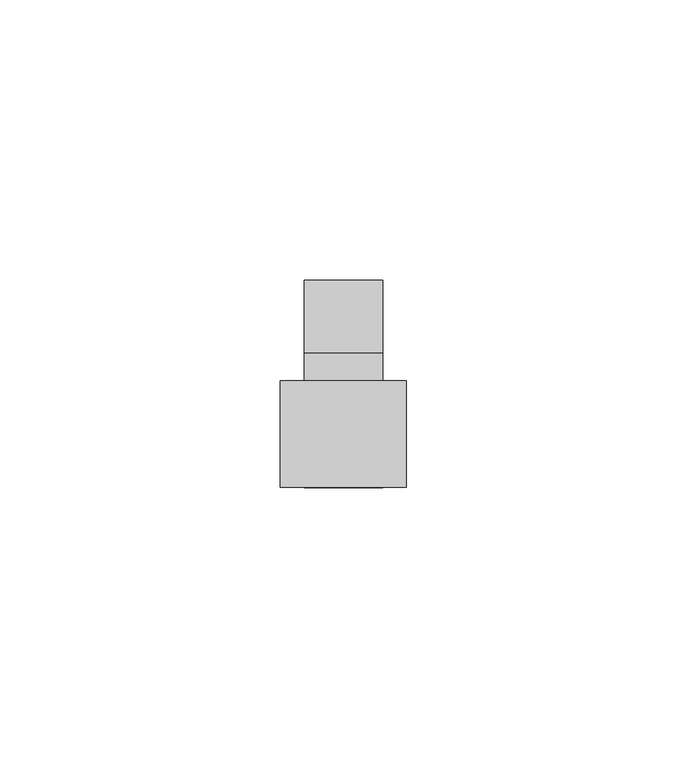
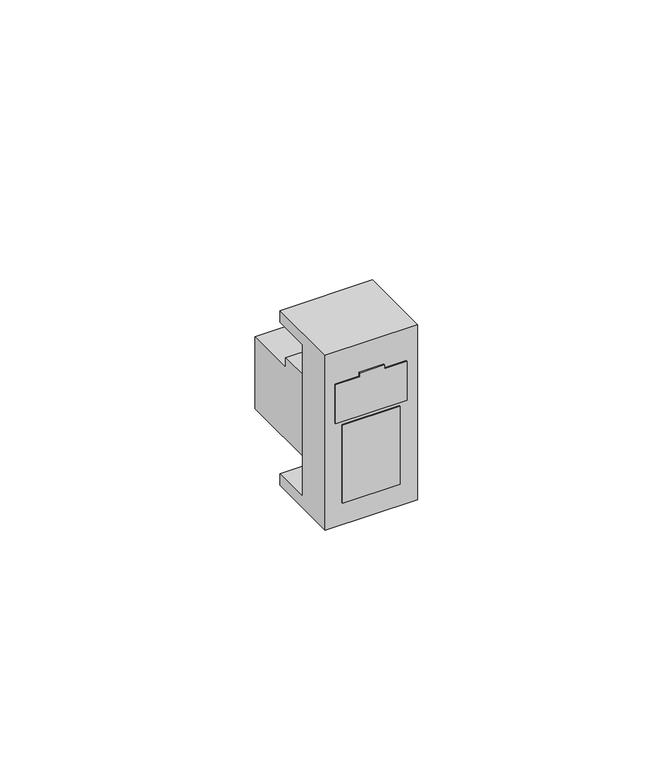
"""IFC4 building model written with IfcOpenShell, lengths in millimetres: proxy geometry."""

import ifcopenshell
import ifcopenshell.guid

model = None  # the IFC model being written
_history = None  # IfcOwnerHistory: only IFC2X3 demands one
_inside = {}  # id of a spatial element -> (the spatial element, [elements in it])
_under = {}  # id of a project, library or spatial element -> (it, [spatial elements below it])
_declared = {}  # id of a project -> (the project, [libraries it declares])
_typed = {}  # id of a type object -> (the type object, [elements of that type])
_made_of = {}  # id of a material, layer set ... -> (it, [elements and type objects made of it])


def new_model(schema):
    """Start an empty IFC model of exactly this schema.

    Asked for "IFC4X3", IfcOpenShell would pick the latest addendum, in which some entities
    have other attributes; the version numbers below select the first issue.
    IFC2X3 requires an IfcOwnerHistory on every rooted entity: one is made here for all.
    """
    global model, _history
    if schema == "IFC4X3":
        model = ifcopenshell.file(schema_version=(4, 3, 0, 0))
    else:
        model = ifcopenshell.file(schema=schema)
    _inside.clear()
    _under.clear()
    _declared.clear()
    _typed.clear()
    _made_of.clear()
    _history = None
    if model.schema == "IFC2X3":
        org = make("IfcOrganization", Name="unknown")
        user = make(
            "IfcPersonAndOrganization",
            ThePerson=make("IfcPerson", FamilyName="unknown"),
            TheOrganization=org,
        )
        app = make(
            "IfcApplication",
            ApplicationDeveloper=org,
            Version="unknown",
            ApplicationFullName="unknown",
            ApplicationIdentifier="unknown",
        )
        _history = make(
            "IfcOwnerHistory",
            OwningUser=user,
            OwningApplication=app,
            ChangeAction="ADDED",
            CreationDate=0,
        )
    return model


def make(cls, **values):
    """One entity of the class cls with the attributes given. An attribute that is None is left unset."""
    return model.create_entity(
        cls, **{name: value for name, value in values.items() if value is not None}
    )


def rooted(cls, **values):
    """An entity with a GlobalId (a new one), such as an element, a storey or a relation."""
    return make(cls, GlobalId=ifcopenshell.guid.new(), OwnerHistory=_history, **values)


def si_unit(unit_type, name, prefix=None):
    """IfcSIUnit, for example si_unit("LENGTHUNIT", "METRE", prefix="MILLI")."""
    return make("IfcSIUnit", UnitType=unit_type, Prefix=prefix, Name=name)


def assignment(units):
    """IfcUnitAssignment: the units of a project."""
    return None if units is None else make("IfcUnitAssignment", Units=units)


def point(xyz):
    """IfcCartesianPoint."""
    return None if xyz is None else make("IfcCartesianPoint", Coordinates=xyz)


def direction(xyz):
    """IfcDirection."""
    return None if xyz is None else make("IfcDirection", DirectionRatios=xyz)


def frame(location, z_axis=None, x_axis=None):
    """IfcAxis2Placement3D, a coordinate frame: its origin and axes. An axis left out is left unset."""
    return make(
        "IfcAxis2Placement3D",
        Location=point(location),
        Axis=direction(z_axis),
        RefDirection=direction(x_axis),
    )


def origin():
    """The frame at (0, 0, 0) with its axes left unset."""
    return frame((0.0, 0.0, 0.0))


def place(relative_to, where):
    """IfcLocalPlacement: puts the frame where relative to a parent placement (None: the world)."""
    return make(
        "IfcLocalPlacement", PlacementRelTo=relative_to, RelativePlacement=where
    )


def context(
    kind, dimensions, precision=None, world=None, true_north=None, identifier=None
):
    """IfcGeometricRepresentationContext, for example the 3D "Model" context."""
    return make(
        "IfcGeometricRepresentationContext",
        ContextIdentifier=identifier,
        ContextType=kind,
        CoordinateSpaceDimension=dimensions,
        Precision=precision,
        WorldCoordinateSystem=world,
        TrueNorth=true_north,
    )


def project(units=None, contexts=None):
    """IfcProject with its units and contexts."""
    return rooted(
        "IfcProject",
        Name="project",
        RepresentationContexts=contexts,
        UnitsInContext=assignment(units),
    )


def spatial(cls, under=None, at=None, **own):
    """A site, building, storey or space (cls), placed at a placement, below another one or the project."""
    s = rooted(cls, ObjectPlacement=at, **own)
    if under is not None:
        _under.setdefault(under.id(), (under, []))[1].append(s)
    return s


def polyline(points):
    """IfcPolyline through the points."""
    return make("IfcPolyline", Points=[point(p) for p in points])


def outline(outer, holes=None, kind="AREA"):
    """IfcArbitraryClosedProfileDef: a profile drawn as a closed curve; with holes, ...WithVoids."""
    if holes is None:
        return make("IfcArbitraryClosedProfileDef", ProfileType=kind, OuterCurve=outer)
    return make(
        "IfcArbitraryProfileDefWithVoids",
        ProfileType=kind,
        OuterCurve=outer,
        InnerCurves=holes,
    )


def extrude(swept, where, along, depth):
    """IfcExtrudedAreaSolid: the profile swept, set in the frame where, extruded along a direction by depth."""
    return make(
        "IfcExtrudedAreaSolid",
        SweptArea=swept,
        Position=where,
        ExtrudedDirection=direction(along),
        Depth=depth,
    )


def faces_of(points, faces, orient=None, outer=None):
    """IfcFace entities. A face is a list of loops; a loop is a list of indices into points, from 0.

    orient and outer hold one flag for each loop. By default every Orientation is true, the
    first loop of a face is its IfcFaceOuterBound and the others are IfcFaceBound.
    """
    made = []
    for i, loops in enumerate(faces):
        bounds = []
        for j, loop in enumerate(loops):
            is_outer = j == 0 if outer is None else outer[i][j]
            bounds.append(
                make(
                    "IfcFaceOuterBound" if is_outer else "IfcFaceBound",
                    Bound=make("IfcPolyLoop", Polygon=[points[k] for k in loop]),
                    Orientation=True if orient is None else orient[i][j],
                )
            )
        made.append(make("IfcFace", Bounds=bounds))
    return made


def faceted_brep(points, faces, orient=None, outer=None, voids=None):
    """IfcFacetedBrep: a solid bounded by flat faces; with voids (closed shells), ...WithVoids."""
    shared = [point(p) for p in points]
    hull = make("IfcClosedShell", CfsFaces=faces_of(shared, faces, orient, outer))
    if voids is None:
        return make("IfcFacetedBrep", Outer=hull)
    return make(
        "IfcFacetedBrepWithVoids",
        Outer=hull,
        Voids=[
            make(cls, CfsFaces=faces_of(shared, fs, o, b)) for cls, fs, o, b in voids
        ],
    )


def shape(context_of_items, identifier, shape_type, items):
    """IfcShapeRepresentation: the items that make up one representation, for example the "Body"."""
    return make(
        "IfcShapeRepresentation",
        ContextOfItems=context_of_items,
        RepresentationIdentifier=identifier,
        RepresentationType=shape_type,
        Items=items,
    )


def source(mapping_origin, context_of_items, identifier, shape_type, items):
    """IfcRepresentationMap: a shape defined once, which mapped items show again and again."""
    return make(
        "IfcRepresentationMap",
        MappingOrigin=mapping_origin,
        MappedRepresentation=shape(context_of_items, identifier, shape_type, items),
    )


def transform(
    local_origin,
    x_axis=None,
    y_axis=None,
    z_axis=None,
    scale=None,
    scale2=None,
    scale3=None,
    uniform=True,
):
    """IfcCartesianTransformationOperator3D, or its non-uniform kind. x_axis, y_axis, z_axis: its Axis1, 2, 3."""
    if uniform:
        return make(
            "IfcCartesianTransformationOperator3D",
            Axis1=direction(x_axis),
            Axis2=direction(y_axis),
            LocalOrigin=point(local_origin),
            Scale=scale,
            Axis3=direction(z_axis),
        )
    return make(
        "IfcCartesianTransformationOperator3DnonUniform",
        Axis1=direction(x_axis),
        Axis2=direction(y_axis),
        LocalOrigin=point(local_origin),
        Scale=scale,
        Axis3=direction(z_axis),
        Scale2=scale2,
        Scale3=scale3,
    )


def mapped(mapping_source, mapping_target):
    """IfcMappedItem: shows the shape of a source again, moved by a transform."""
    return make(
        "IfcMappedItem", MappingSource=mapping_source, MappingTarget=mapping_target
    )


def made_of(thing, what):
    """Note that an element or type object is made of a material, layer set ...; save() writes the relation."""
    if what is not None:
        _made_of.setdefault(what.id(), (what, []))[1].append(thing)
    return thing


def element(
    cls,
    number,
    at=None,
    inside=None,
    cuts=None,
    type_object=None,
    material=None,
    context=None,
    identifier="Body",
    shape_type=None,
    held_by="IfcProductDefinitionShape",
    body=None,
    shapes=None,
    **own,
):
    """One element of the class cls, such as IfcWall. Its Tag is "e" and its number.

    at: its placement. inside: the storey or other place that contains it. cuts: it is an
    opening in that element (IfcRelVoidsElement). A single representation is given by context,
    identifier, shape_type and body (its items); several are given by shapes. held_by: the class
    of the entity that holds the representations. save() writes the other relations.
    """
    e = rooted(cls, Tag="e%d" % number, ObjectPlacement=at, **own)
    if body is not None:
        shapes = [shape(context, identifier, shape_type, body)]
    if shapes is not None:
        e.Representation = make(held_by, Representations=shapes)
    if inside is not None:
        _inside.setdefault(inside.id(), (inside, []))[1].append(e)
    if cuts is not None:
        rooted(
            "IfcRelVoidsElement", RelatingBuildingElement=cuts, RelatedOpeningElement=e
        )
    if type_object is not None:
        _typed.setdefault(type_object.id(), (type_object, []))[1].append(e)
    return made_of(e, material)


def aggregate(whole, parts):
    """IfcRelAggregates: a whole, such as a stair, and the parts it consists of."""
    return rooted("IfcRelAggregates", RelatingObject=whole, RelatedObjects=parts)


def save(model, path):
    """Write the relations noted so far, then the file.

    IfcRelAggregates (storeys below a building ...), IfcRelContainedInSpatialStructure (elements
    in a storey), IfcRelDefinesByType, IfcRelAssociatesMaterial and IfcRelDeclares: one each for
    every whole, place, type object, material and project.
    """
    for whole, parts in _under.values():
        aggregate(whole, parts)
    for where, things in _inside.values():
        rooted(
            "IfcRelContainedInSpatialStructure",
            RelatedElements=things,
            RelatingStructure=where,
        )
    for kind, things in _typed.values():
        rooted("IfcRelDefinesByType", RelatedObjects=things, RelatingType=kind)
    for what, things in _made_of.values():
        rooted("IfcRelAssociatesMaterial", RelatedObjects=things, RelatingMaterial=what)
    for by, libraries in _declared.values():
        rooted("IfcRelDeclares", RelatingContext=by, RelatedDefinitions=libraries)
    model.write(path)


def electrical_fixtures_1e6e54ff(model_context):
    return source(origin(), model_context, "Body", "SolidModel", [
        extrude(outline(polyline([(3.9878881, 19.9), (13.9878881, 19.9), (13.9878881, 14.4016824), (14.9878881, 14.4016824), (14.9878881, 8.4016824), (13.9878881, 8.4016824), (13.9878881, 2.5), (3.9878881, 2.5), (3.9878881, 19.9)])), frame((0.0, -7.0, 0.0), z_axis=(0.0, 1.0, 0.0), x_axis=(0.0, 0.0, 1.0)), (0.0, 0.0, 1.0), 1.0),
        extrude(outline(polyline([(18.2, -7.0), (4.2, -7.0), (4.2, -6.0), (18.2, -6.0), (18.2, -7.0)])), frame((0.0, 0.0, -16.95), z_axis=(0.0, 0.0, 1.0), x_axis=(1.0, 0.0, 0.0)), (0.0, 0.0, 1.0), 19.9378881),
        extrude(outline(polyline([(8.3269263, 8.0), (8.3269263, 5.9037214), (16.9, 5.9037214), (16.9, 3.4037214), (29.9, 3.4037214), (29.9, -15.0962786), (6.1, -15.0962786), (6.1, -17.95), (2.5, -17.95), (2.5, 8.0), (8.3269263, 8.0)])), frame((4.2, 0.0, 0.0), z_axis=(1.0, 0.0, 0.0), x_axis=(0.0, 1.0, 0.0)), (0.0, 0.0, 1.0), 14.0),
        faceted_brep([(22.4, 12.0, 22.45), (22.4, 12.0, 19.45), (0.0, 12.0, 19.45), (0.0, 12.0, 22.45), (22.4, 2.5, 19.45), (0.0, 2.5, 19.45), (22.4, -7.0, -22.45), (22.4, -7.0, 22.45), (0.0, -7.0, 22.45), (0.0, -7.0, -22.45), (19.9, -7.0, 13.9878881), (19.9, -7.0, 3.9878881), (2.5, -7.0, 3.9878881), (2.5, -7.0, 13.9878881), (8.4016824, -7.0, 13.9878881), (8.4016824, -7.0, 14.9878881), (14.4016824, -7.0, 14.9878881), (14.4016824, -7.0, 13.9878881), (4.2, -7.0, 2.9878881), (18.2, -7.0, 2.9878881), (18.2, -7.0, -16.95), (4.2, -7.0, -16.95), (22.4, 2.5, -19.45), (0.0, 2.5, -19.45), (22.4, 12.0, -22.45), (22.4, 12.0, -19.45), (0.0, 12.0, -19.45), (0.0, 12.0, -22.45), (19.9, -3.5, 3.9878881), (19.9, -3.5, 13.9878881), (14.4016824, -3.5, 13.9878881), (14.4016824, -3.5, 14.9878881), (8.4016824, -3.5, 14.9878881), (8.4016824, -3.5, 13.9878881), (2.5, -3.5, 13.9878881), (2.5, -3.5, 3.9878881), (18.2, -3.5, 2.9878881), (4.2, -3.5, 2.9878881), (4.2, -3.5, -16.95), (18.2, -3.5, -16.95), (9.1879463, -3.5, -13.8368244), (9.1879463, -3.5, 0.6446082), (14.0243326, -3.5, 0.6446082), (14.0243326, -3.5, -13.8368244), (11.293545, -3.5, -1.5961081), (10.493545, -3.5, -1.5961081), (10.493545, -3.5, -11.5961081), (11.293545, -3.5, -11.5961081), (9.1879463, 0.0, 0.6446082), (9.1879463, 0.0, -13.8368244), (14.0243326, 0.0, -13.8368244), (14.0243326, 0.0, 0.6446082), (10.493545, 0.0, -1.5961081), (11.293545, 0.0, -1.5961081), (11.293545, 0.0, -11.5961081), (10.493545, 0.0, -11.5961081)], [[[0, 1, 2, 3]], [[2, 1, 4, 5]], [[6, 7, 8, 9], [10, 11, 12, 13, 14, 15, 16, 17], [18, 19, 20, 21]], [[5, 4, 22, 23]], [[7, 6, 24, 25, 22, 4, 1, 0]], [[8, 7, 0, 3]], [[9, 8, 3, 2, 5, 23, 26, 27]], [[24, 6, 9, 27]], [[25, 24, 27, 26]], [[25, 26, 23, 22]], [[28, 29, 30, 31, 32, 33, 34, 35]], [[36, 37, 38, 39], [40, 41, 42, 43]], [[44, 45, 46, 47]], [[29, 28, 11, 10]], [[30, 29, 10, 17]], [[31, 30, 17, 16]], [[32, 31, 16, 15]], [[33, 32, 15, 14]], [[34, 33, 14, 13]], [[35, 34, 13, 12]], [[28, 35, 12, 11]], [[37, 36, 19, 18]], [[38, 37, 18, 21]], [[39, 38, 21, 20]], [[36, 39, 20, 19]], [[48, 49, 50, 51], [52, 53, 54, 55]], [[49, 48, 41, 40]], [[50, 49, 40, 43]], [[51, 50, 43, 42]], [[48, 51, 42, 41]], [[53, 52, 45, 44]], [[54, 53, 44, 47]], [[55, 54, 47, 46]], [[52, 55, 46, 45]]]),
    ])


if __name__ == "__main__":
    model = new_model("IFC4")
    model_context = context("Model", 3, world=origin())
    ifc_project = project(units=[si_unit("LENGTHUNIT", "METRE", prefix="MILLI")], contexts=[model_context])
    site = spatial("IfcSite", under=ifc_project)
    building = spatial("IfcBuilding", under=site)
    placement = place(None, origin())
    electrical_fixtures_shape = electrical_fixtures_1e6e54ff(model_context)
    element("IfcBuildingElementProxy", 1, Name="Electrical Fixtures", at=placement, inside=building, context=model_context, shape_type="MappedRepresentation", body=[
        mapped(electrical_fixtures_shape, transform((0.0, 0.0, 0.0), x_axis=(1.0, 0.0, 0.0), y_axis=(0.0, 1.0, 0.0), z_axis=(0.0, 0.0, 1.0))),
    ])
    save(model, "model.ifc")
